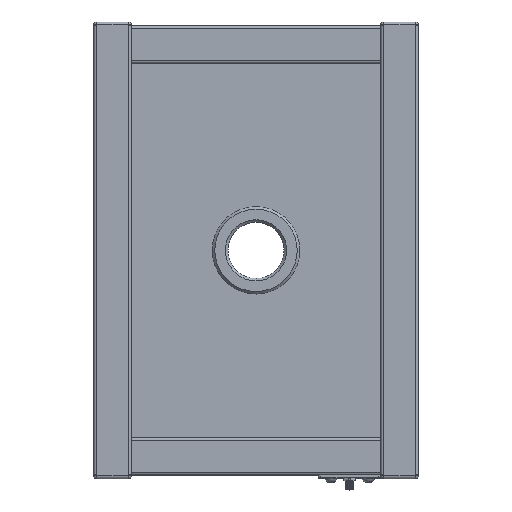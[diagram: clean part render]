
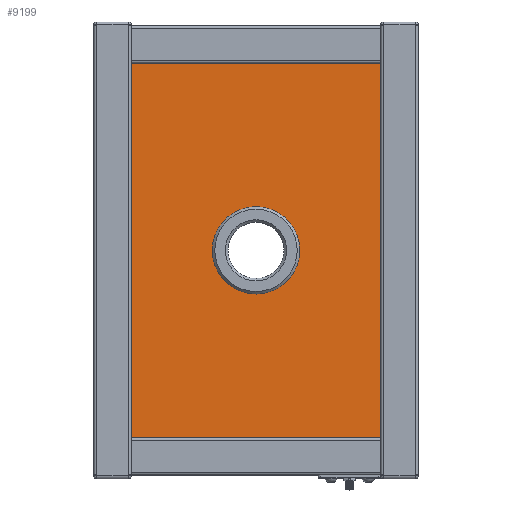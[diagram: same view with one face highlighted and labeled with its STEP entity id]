
A CAD part, top view. The second image highlights one B-rep face of the part: STEP entity #9199.
In plain terms, the highlighted planar face has unit normal (0, 0, 1).
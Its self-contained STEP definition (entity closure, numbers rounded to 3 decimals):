
#267 = EDGE_CURVE ( 'NONE', #15126, #18154, #28150, .T. ) ;
#1293 = CARTESIAN_POINT ( 'NONE',  ( 0., 0., 0. ) ) ;
#1918 = VERTEX_POINT ( 'NONE', #4911 ) ;
#2255 = EDGE_CURVE ( 'NONE', #18154, #8023, #14915, .T. ) ;
#2420 = LINE ( 'NONE', #24939, #28610 ) ;
#2734 = CARTESIAN_POINT ( 'NONE',  ( 0., -35., 0. ) ) ;
#3187 = DIRECTION ( 'NONE',  ( -1., 0., 0. ) ) ;
#3691 = AXIS2_PLACEMENT_3D ( 'NONE', #1293, #24145, #12643 ) ;
#4065 = VECTOR ( 'NONE', #5744, 1000. ) ;
#4911 = CARTESIAN_POINT ( 'NONE',  ( -100., 150., 0. ) ) ;
#5744 = DIRECTION ( 'NONE',  ( 1., 0., 0. ) ) ;
#6443 = VECTOR ( 'NONE', #28824, 1000. ) ;
#6856 = LINE ( 'NONE', #20981, #15678 ) ;
#8023 = VERTEX_POINT ( 'NONE', #21733 ) ;
#8804 = EDGE_LOOP ( 'NONE', ( #19855 ) ) ;
#9199 = ADVANCED_FACE ( 'NONE', ( #18949, #23192 ), #10493, .T. ) ;
#10493 = PLANE ( 'NONE',  #3691 ) ;
#10962 = EDGE_LOOP ( 'NONE', ( #14628, #15445, #24510, #19057 ) ) ;
#12643 = DIRECTION ( 'NONE',  ( 0., -1., 0. ) ) ;
#12966 = CARTESIAN_POINT ( 'NONE',  ( 100., -150., 0. ) ) ;
#13154 = AXIS2_PLACEMENT_3D ( 'NONE', #27432, #27225, #18034 ) ;
#14628 = ORIENTED_EDGE ( 'NONE', *, *, #23322, .T. ) ;
#14915 = LINE ( 'NONE', #12966, #6443 ) ;
#15126 = VERTEX_POINT ( 'NONE', #17483 ) ;
#15445 = ORIENTED_EDGE ( 'NONE', *, *, #267, .T. ) ;
#15678 = VECTOR ( 'NONE', #3187, 1000. ) ;
#17483 = CARTESIAN_POINT ( 'NONE',  ( -100., -150., 0. ) ) ;
#17994 = DIRECTION ( 'NONE',  ( 0., -1., 0. ) ) ;
#18034 = DIRECTION ( 'NONE',  ( 0., -1., 0. ) ) ;
#18077 = CARTESIAN_POINT ( 'NONE',  ( 100., -150., 0. ) ) ;
#18140 = CIRCLE ( 'NONE', #13154, 35. ) ;
#18154 = VERTEX_POINT ( 'NONE', #18077 ) ;
#18949 = FACE_BOUND ( 'NONE', #8804, .T. ) ;
#19057 = ORIENTED_EDGE ( 'NONE', *, *, #19277, .T. ) ;
#19277 = EDGE_CURVE ( 'NONE', #8023, #1918, #6856, .T. ) ;
#19294 = CARTESIAN_POINT ( 'NONE',  ( 100., -150., 0. ) ) ;
#19855 = ORIENTED_EDGE ( 'NONE', *, *, #27108, .F. ) ;
#20981 = CARTESIAN_POINT ( 'NONE',  ( 100., 150., 0. ) ) ;
#21733 = CARTESIAN_POINT ( 'NONE',  ( 100., 150., 0. ) ) ;
#23192 = FACE_OUTER_BOUND ( 'NONE', #10962, .T. ) ;
#23322 = EDGE_CURVE ( 'NONE', #1918, #15126, #2420, .T. ) ;
#24145 = DIRECTION ( 'NONE',  ( 0., 0., 1. ) ) ;
#24510 = ORIENTED_EDGE ( 'NONE', *, *, #2255, .T. ) ;
#24939 = CARTESIAN_POINT ( 'NONE',  ( -100., -150., 0. ) ) ;
#26212 = VERTEX_POINT ( 'NONE', #2734 ) ;
#27108 = EDGE_CURVE ( 'NONE', #26212, #26212, #18140, .T. ) ;
#27225 = DIRECTION ( 'NONE',  ( 0., 0., 1. ) ) ;
#27432 = CARTESIAN_POINT ( 'NONE',  ( 0., 0., 0. ) ) ;
#28150 = LINE ( 'NONE', #19294, #4065 ) ;
#28610 = VECTOR ( 'NONE', #17994, 1000. ) ;
#28824 = DIRECTION ( 'NONE',  ( 0., 1., 0. ) ) ;
